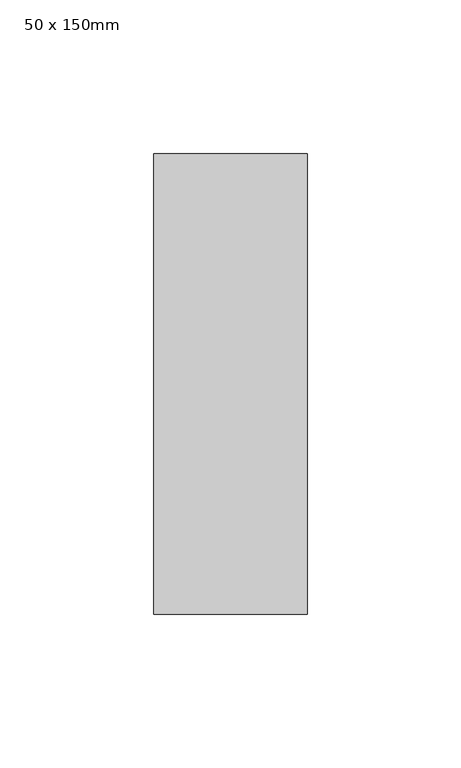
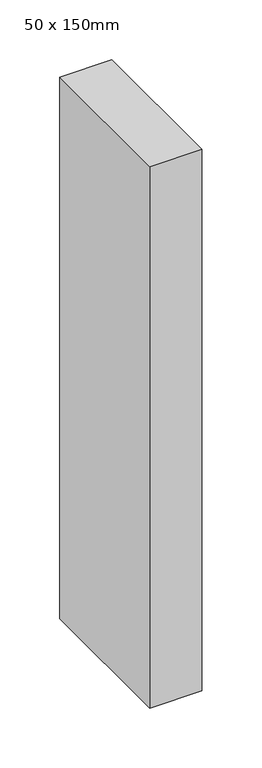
"""IFC4 building model written with IfcOpenShell, lengths in millimetres: member geometry, Прямоугольный импост : 50 x 150mm."""

from ifc_helpers import new_model, si_unit, frame, origin, place, context, project, spatial, polyline, outline, extrude, source, transform, mapped, element, save


def member_50_x_150mm_ac538c38(model_context):
    return source(origin(), model_context, "Body", "SweptSolid", [
        extrude(outline(polyline([(0.0, 75.0), (0.0, -75.0), (-50.0, -75.0), (-50.0, 75.0), (0.0, 75.0)])), frame((0.0, 0.0, -550.9868378), z_axis=(0.0, 0.0, 1.0), x_axis=(1.0, 0.0, 0.0)), (0.0, 0.0, 1.0), 550.9868378),
    ])


if __name__ == "__main__":
    model = new_model("IFC4")
    model_context = context("Model", 3, world=origin())
    ifc_project = project(units=[si_unit("LENGTHUNIT", "METRE", prefix="MILLI")], contexts=[model_context])
    site = spatial("IfcSite", under=ifc_project)
    building = spatial("IfcBuilding", under=site)
    placement = place(None, origin())
    member_50_x_150mm_shape = member_50_x_150mm_ac538c38(model_context)
    element("IfcMember", 1, ObjectType="Прямоугольный импост : 50 x 150mm", at=placement, inside=building, context=model_context, shape_type="MappedRepresentation", body=[
        mapped(member_50_x_150mm_shape, transform((0.0, 0.0, 0.0), x_axis=(1.0, 0.0, 0.0), y_axis=(0.0, 1.0, 0.0), z_axis=(0.0, 0.0, 1.0))),
    ])
    save(model, "model.ifc")
